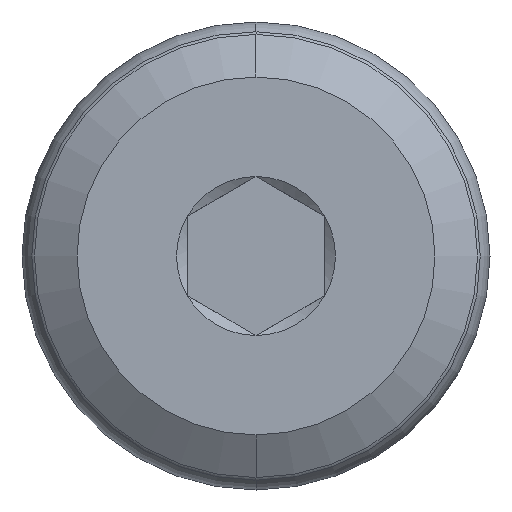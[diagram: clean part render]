
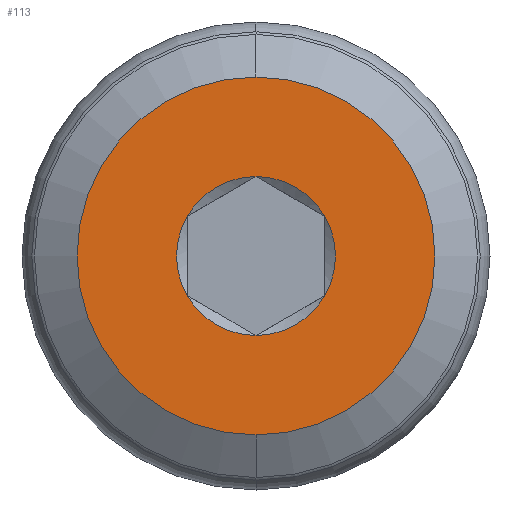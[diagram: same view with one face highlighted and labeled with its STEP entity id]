
A CAD part, left-side view. The second image highlights one B-rep face of the part: STEP entity #113.
In plain terms, the highlighted planar face has unit normal (-1, 0, 0).
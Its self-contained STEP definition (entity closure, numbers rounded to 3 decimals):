
#21 = DIRECTION ( 'NONE',  ( 0., 0., -1. ) ) ;
#25 = CARTESIAN_POINT ( 'NONE',  ( 0., 0., 0. ) ) ;
#28 = ORIENTED_EDGE ( 'NONE', *, *, #634, .T. ) ;
#29 = AXIS2_PLACEMENT_3D ( 'NONE', #748, #682, #133 ) ;
#64 = CARTESIAN_POINT ( 'NONE',  ( 0., 0., 0. ) ) ;
#73 = CARTESIAN_POINT ( 'NONE',  ( 0., 0., 0. ) ) ;
#79 = CARTESIAN_POINT ( 'NONE',  ( 0., 0., 3.25 ) ) ;
#82 = DIRECTION ( 'NONE',  ( 1., 0., 0. ) ) ;
#90 = DIRECTION ( 'NONE',  ( 1., 0., 0. ) ) ;
#93 = CIRCLE ( 'NONE', #525, 1.443 ) ;
#96 = DIRECTION ( 'NONE',  ( 0., 0., -1. ) ) ;
#98 = CARTESIAN_POINT ( 'NONE',  ( 0., 0., 0. ) ) ;
#113 = ADVANCED_FACE ( 'NONE', ( #245, #305 ), #552, .T. ) ;
#117 = CIRCLE ( 'NONE', #321, 3.25 ) ;
#123 = DIRECTION ( 'NONE',  ( 1., 0., 0. ) ) ;
#133 = DIRECTION ( 'NONE',  ( 0., 0., -1. ) ) ;
#134 = CARTESIAN_POINT ( 'NONE',  ( 0., 0., -3.25 ) ) ;
#139 = EDGE_LOOP ( 'NONE', ( #281, #347 ) ) ;
#152 = ORIENTED_EDGE ( 'NONE', *, *, #204, .T. ) ;
#174 = VERTEX_POINT ( 'NONE', #327 ) ;
#181 = CARTESIAN_POINT ( 'NONE',  ( 0., 1.25, 0.722 ) ) ;
#190 = AXIS2_PLACEMENT_3D ( 'NONE', #73, #123, #253 ) ;
#200 = VERTEX_POINT ( 'NONE', #79 ) ;
#202 = CIRCLE ( 'NONE', #771, 1.443 ) ;
#204 = EDGE_CURVE ( 'NONE', #419, #174, #202, .T. ) ;
#234 = VERTEX_POINT ( 'NONE', #134 ) ;
#241 = DIRECTION ( 'NONE',  ( 1., 0., 0. ) ) ;
#245 = FACE_BOUND ( 'NONE', #781, .T. ) ;
#247 = CIRCLE ( 'NONE', #397, 3.25 ) ;
#253 = DIRECTION ( 'NONE',  ( 0., 0., -1. ) ) ;
#257 = DIRECTION ( 'NONE',  ( 0., 0., -1. ) ) ;
#272 = CIRCLE ( 'NONE', #541, 1.443 ) ;
#275 = CARTESIAN_POINT ( 'NONE',  ( 0., 0., 0. ) ) ;
#281 = ORIENTED_EDGE ( 'NONE', *, *, #710, .F. ) ;
#293 = VERTEX_POINT ( 'NONE', #401 ) ;
#305 = FACE_OUTER_BOUND ( 'NONE', #139, .T. ) ;
#307 = CIRCLE ( 'NONE', #29, 1.443 ) ;
#320 = DIRECTION ( 'NONE',  ( 1., 0., 0. ) ) ;
#321 = AXIS2_PLACEMENT_3D ( 'NONE', #692, #765, #505 ) ;
#326 = CARTESIAN_POINT ( 'NONE',  ( 0., 0., -1.443 ) ) ;
#327 = CARTESIAN_POINT ( 'NONE',  ( 0., 0., 1.443 ) ) ;
#347 = ORIENTED_EDGE ( 'NONE', *, *, #529, .F. ) ;
#354 = DIRECTION ( 'NONE',  ( 1., 0., 0. ) ) ;
#395 = AXIS2_PLACEMENT_3D ( 'NONE', #491, #733, #428 ) ;
#396 = CARTESIAN_POINT ( 'NONE',  ( 0., 0., 0. ) ) ;
#397 = AXIS2_PLACEMENT_3D ( 'NONE', #64, #241, #616 ) ;
#401 = CARTESIAN_POINT ( 'NONE',  ( 0., 1.25, -0.722 ) ) ;
#419 = VERTEX_POINT ( 'NONE', #181 ) ;
#428 = DIRECTION ( 'NONE',  ( 0., 0., 1. ) ) ;
#447 = CIRCLE ( 'NONE', #606, 1.443 ) ;
#458 = ORIENTED_EDGE ( 'NONE', *, *, #660, .T. ) ;
#489 = EDGE_CURVE ( 'NONE', #174, #519, #579, .T. ) ;
#491 = CARTESIAN_POINT ( 'NONE',  ( 0., 3.25, 0. ) ) ;
#505 = DIRECTION ( 'NONE',  ( 0., 0., -1. ) ) ;
#519 = VERTEX_POINT ( 'NONE', #610 ) ;
#525 = AXIS2_PLACEMENT_3D ( 'NONE', #275, #82, #257 ) ;
#529 = EDGE_CURVE ( 'NONE', #200, #234, #247, .T. ) ;
#532 = VERTEX_POINT ( 'NONE', #732 ) ;
#541 = AXIS2_PLACEMENT_3D ( 'NONE', #98, #354, #655 ) ;
#552 = PLANE ( 'NONE',  #395 ) ;
#560 = ORIENTED_EDGE ( 'NONE', *, *, #489, .T. ) ;
#579 = CIRCLE ( 'NONE', #190, 1.443 ) ;
#595 = EDGE_CURVE ( 'NONE', #293, #419, #307, .T. ) ;
#606 = AXIS2_PLACEMENT_3D ( 'NONE', #396, #320, #21 ) ;
#610 = CARTESIAN_POINT ( 'NONE',  ( 0., -1.25, 0.722 ) ) ;
#616 = DIRECTION ( 'NONE',  ( 0., 0., -1. ) ) ;
#634 = EDGE_CURVE ( 'NONE', #519, #532, #93, .T. ) ;
#638 = ORIENTED_EDGE ( 'NONE', *, *, #736, .T. ) ;
#653 = VERTEX_POINT ( 'NONE', #326 ) ;
#655 = DIRECTION ( 'NONE',  ( 0., 0., -1. ) ) ;
#660 = EDGE_CURVE ( 'NONE', #532, #653, #447, .T. ) ;
#682 = DIRECTION ( 'NONE',  ( 1., 0., 0. ) ) ;
#692 = CARTESIAN_POINT ( 'NONE',  ( 0., 0., 0. ) ) ;
#710 = EDGE_CURVE ( 'NONE', #234, #200, #117, .T. ) ;
#732 = CARTESIAN_POINT ( 'NONE',  ( 0., -1.25, -0.722 ) ) ;
#733 = DIRECTION ( 'NONE',  ( -1., 0., 0. ) ) ;
#736 = EDGE_CURVE ( 'NONE', #653, #293, #272, .T. ) ;
#748 = CARTESIAN_POINT ( 'NONE',  ( 0., 0., 0. ) ) ;
#753 = ORIENTED_EDGE ( 'NONE', *, *, #595, .T. ) ;
#765 = DIRECTION ( 'NONE',  ( 1., 0., 0. ) ) ;
#771 = AXIS2_PLACEMENT_3D ( 'NONE', #25, #90, #96 ) ;
#781 = EDGE_LOOP ( 'NONE', ( #152, #560, #28, #458, #638, #753 ) ) ;
